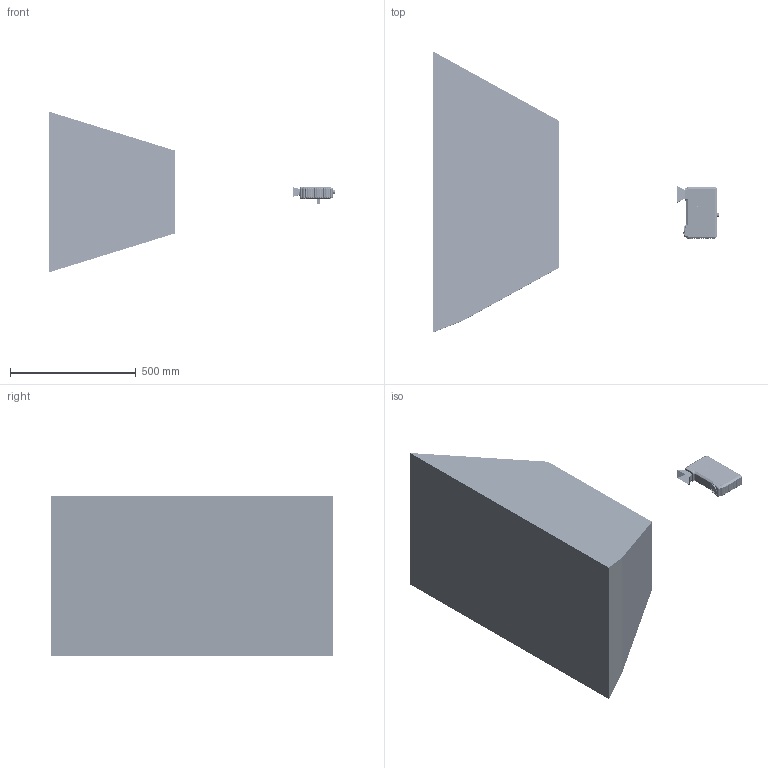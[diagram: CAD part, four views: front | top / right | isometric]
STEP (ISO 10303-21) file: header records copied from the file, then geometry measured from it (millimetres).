
FILE_DESCRIPTION((''),'2;1');
FILE_NAME('DFX809_ASM','2024-08-23T',('Ҧ'),(''),'PRO/ENGINEER BY PARAMETRIC TECHNOLOGY CORPORATION, 2010280','PRO/ENGINEER BY PARAMETRIC TECHNOLOGY CORPORATION, 2010280','');
FILE_SCHEMA(('CONFIG_CONTROL_DESIGN'));
Products named in the file (36): 809; LIGHT_5_12; M6SDMIN_4_14; M6SDMAX_5_14; M6SDJT_4_14; ZHUT_16; M6SD_ASM; M6S_QUDONGBAN1_2; 809-KA; 809-43; 808HUAN; 809BEIBAN; COMS-BASLER; MVL-HF0624M-10MP; MV-CS020-10UC; MVL-MF0824M-5MPE; MVL-MF0828M-8MP; 809COMS_ASM; 40X28X2; 808S; PCB-808; 155-0746-000_1; MANIFOLD_SOLID_BREP_53450; 142-63448-1GEN_A00_1; USB3; PMMA; 8-90; 8-M12; 8-M12-A; 8-90_ASM; USBAMX90__NEI; USBAMX90__; UABAMX90___ASM; PCB-808_ASM; DC24-IP67; DFX809_ASM
Assembly tree (39 placements, depth 4):
  DFX809_ASM
    809
    M6SD_ASM
      LIGHT_5_12
      M6SDMIN_4_14
      M6SDMAX_5_14
      M6SDJT_4_14
      ZHUT_16
    M6S_QUDONGBAN1_2
    809-KA
    809-43
    808HUAN
    809COMS_ASM
      809BEIBAN
      COMS-BASLER
      MVL-HF0624M-10MP
      MV-CS020-10UC
      MVL-MF0824M-5MPE
      MVL-MF0828M-8MP
    40X28X2  x2
    808S
    PCB-808_ASM
      PCB-808
      155-0746-000_1  x2
      MANIFOLD_SOLID_BREP_53450
      142-63448-1GEN_A00_1
      USB3
      PMMA  x3
      8-90_ASM
        8-90
        8-M12
        8-M12-A
      UABAMX90___ASM
        USBAMX90__NEI
        USBAMX90__
    DC24-IP67
Bounding box: 1137.45 x 1116.86 x 639.01 mm (x, y, z)
Volume: 215262561.2 mm3; surface area: 2672958.9 mm2
Topology: 36 solids, 61 shells, 11330 faces, 30467 edges, 19813 vertices
Faces by surface type: plane 5855, cylinder 3035, bspline 1388, cone 771, torus 205, sphere 51, extrusion 19, revolution 6
Entity records: 405891 total; most frequent: CARTESIAN_POINT 128438, ORIENTED_EDGE 60488, DIRECTION 53815, EDGE_CURVE 30244, VERTEX_POINT 19703, AXIS2_PLACEMENT_3D 18090, VECTOR 17629, LINE 17610
